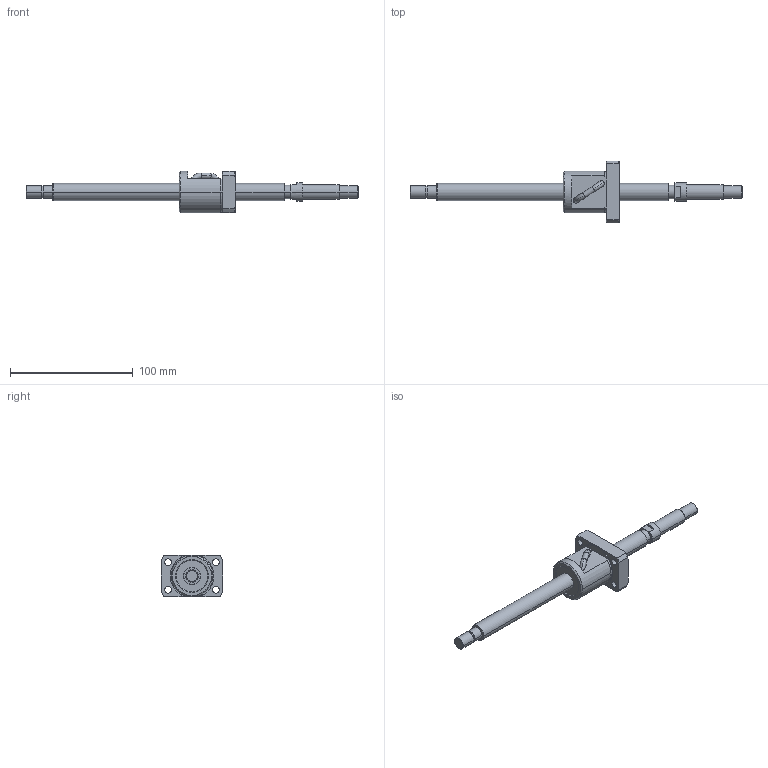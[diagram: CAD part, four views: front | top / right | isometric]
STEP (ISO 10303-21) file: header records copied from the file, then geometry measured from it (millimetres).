
FILE_DESCRIPTION (( 'STEP AP214' ), '1' );
FILE_NAME ('BS1408A-3D.STEP', '2014-03-05T14:46:43', ( '' ), ( '' ), 'SwSTEP 2.0', 'SolidWorks 2012', '' );
FILE_SCHEMA (( 'AUTOMOTIVE_DESIGN' ));
Length unit declared in the file: millimetre
Products named in the file (3): BS1408Aナット; BS1408AŽ²; BS1408A-3D
Assembly tree (2 placements, depth 2):
  BS1408A-3D
    BS1408AŽ²
    BS1408Aナット
Bounding box: 271 x 50 x 34 mm (x, y, z)
Volume: 74079.8 mm3; surface area: 24660.6 mm2
Topology: 2 solids, 2 shells, 154 faces, 391 edges, 252 vertices
Faces by surface type: cylinder 72, plane 42, cone 34, torus 4, bspline 2
Entity records: 6043 total; most frequent: CARTESIAN_POINT 2066, DIRECTION 820, ORIENTED_EDGE 778, EDGE_CURVE 389, AXIS2_PLACEMENT_3D 340, VERTEX_POINT 252, EDGE_LOOP 187, CIRCLE 183
